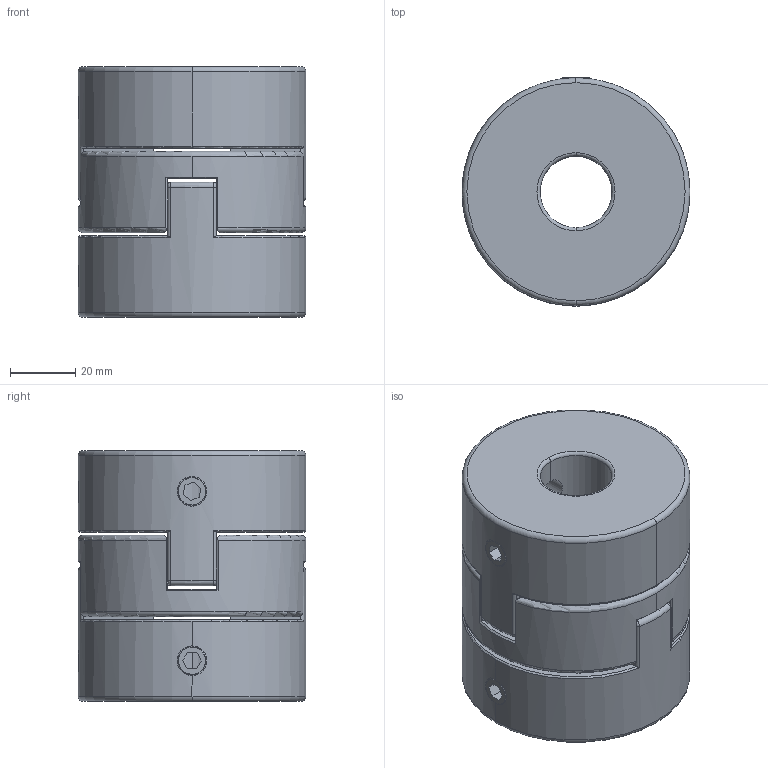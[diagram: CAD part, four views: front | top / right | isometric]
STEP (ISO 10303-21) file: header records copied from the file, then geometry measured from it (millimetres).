
FILE_DESCRIPTION (( 'STEP AP203' ), '1' );
FILE_NAME ('FAMJ70-22x22.STEP', '2014-02-17T01:14:52', ( '123' ), ( '' ), 'SwSTEP 2.0', 'SolidWorks 2013', '' );
FILE_SCHEMA (( 'CONFIG_CONTROL_DESIGN' ));
Length unit declared in the file: millimetre
Products named in the file (1): FAMJ70-22x22
Bounding box: 70 x 70 x 77 mm (x, y, z)
Surface area: 44978.5 mm2 (no closed solid volume)
Topology: 0 solids, 7 shells, 148 faces, 434 edges, 288 vertices
Faces by surface type: plane 78, cylinder 26, torus 23, cone 13, bspline 8
Entity records: 6060 total; most frequent: CARTESIAN_POINT 2207, DIRECTION 767, ORIENTED_EDGE 752, EDGE_CURVE 434, VERTEX_POINT 288, AXIS2_PLACEMENT_3D 280, LINE 207, VECTOR 207
